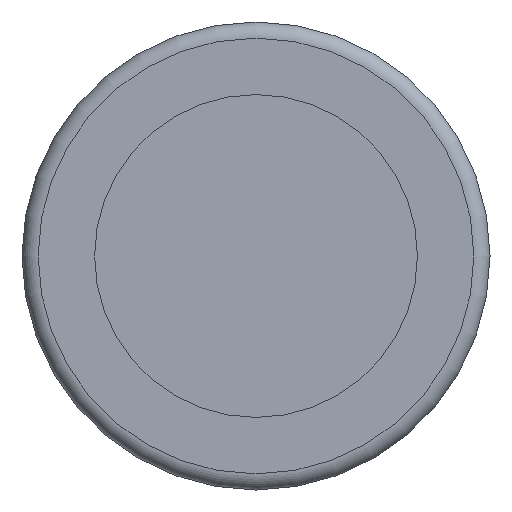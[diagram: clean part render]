
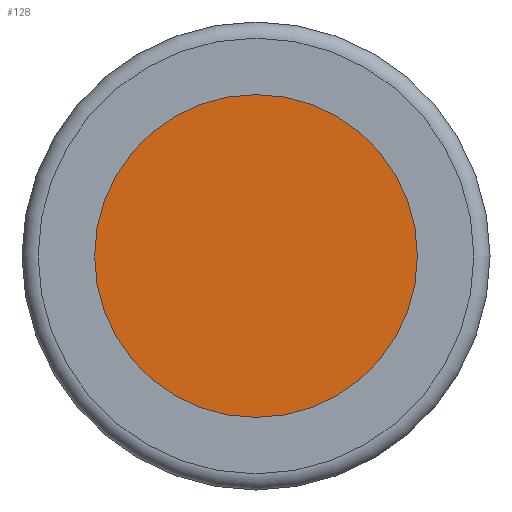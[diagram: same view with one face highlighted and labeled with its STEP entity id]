
A CAD part, left-side view. The second image highlights one B-rep face of the part: STEP entity #128.
In plain terms, the highlighted planar face has unit normal (-1, 0, 0).
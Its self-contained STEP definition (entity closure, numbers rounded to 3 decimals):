
#99=CARTESIAN_POINT('',(0.0,20.0,0.));
#100=VERTEX_POINT('',#99);
#101=CARTESIAN_POINT('',(0.0,0.0,0.0));
#102=DIRECTION('',(-1.0,0.0,0.0));
#103=DIRECTION('',(0.0,-1.0,0.0));
#104=AXIS2_PLACEMENT_3D('',#101,#102,#103);
#105=CIRCLE('',#104,20.0);
#106=EDGE_CURVE('',#100,#100,#105,.T.);
#120=CARTESIAN_POINT('',(0.0,0.0,0.0));
#121=DIRECTION('',(-1.0,0.0,0.0));
#122=DIRECTION('',(0.0,0.0,1.0));
#123=AXIS2_PLACEMENT_3D('',#120,#121,#122);
#124=PLANE('',#123);
#125=ORIENTED_EDGE('',*,*,#106,.T.);
#126=EDGE_LOOP('',(#125));
#127=FACE_OUTER_BOUND('',#126,.T.);
#128=ADVANCED_FACE('',(#127),#124,.T.);
